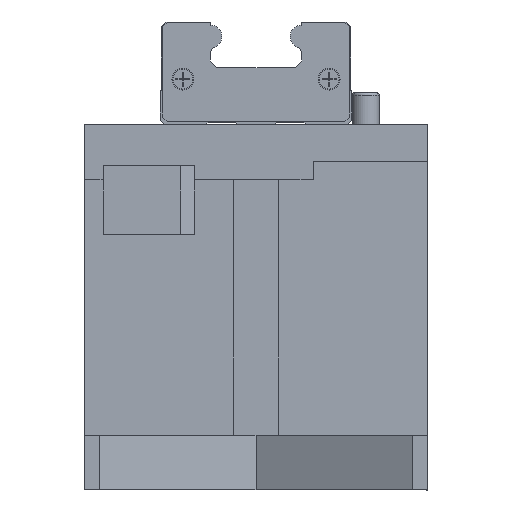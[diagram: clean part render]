
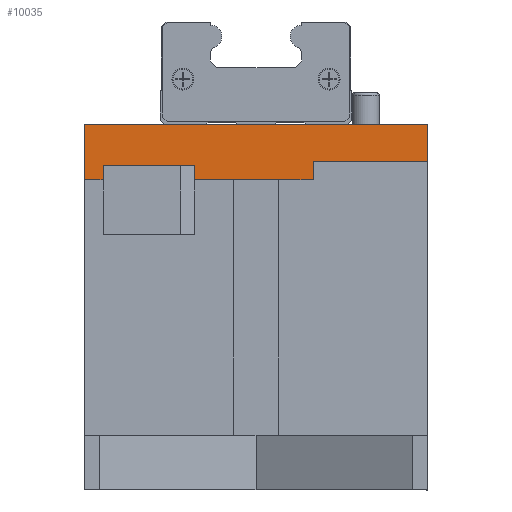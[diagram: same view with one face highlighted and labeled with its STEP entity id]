
A CAD part, left-side view. The second image highlights one B-rep face of the part: STEP entity #10035.
In plain terms, the highlighted planar face has unit normal (-1, 0, 0).
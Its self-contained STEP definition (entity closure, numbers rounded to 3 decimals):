
#160 = CARTESIAN_POINT ( 'NONE',  ( -50., -9., 4. ) ) ;
#316 = LINE ( 'NONE', #26153, #1324 ) ;
#535 = CARTESIAN_POINT ( 'NONE',  ( -50., -12., 0. ) ) ;
#1324 = VECTOR ( 'NONE', #19782, 1000. ) ;
#1963 = DIRECTION ( 'NONE',  ( 0., 0., 1. ) ) ;
#2009 = ORIENTED_EDGE ( 'NONE', *, *, #10796, .F. ) ;
#2224 = AXIS2_PLACEMENT_3D ( 'NONE', #4790, #4514, #11108 ) ;
#2346 = CARTESIAN_POINT ( 'NONE',  ( -50., -9., 0. ) ) ;
#2416 = EDGE_CURVE ( 'NONE', #20709, #24258, #4548, .T. ) ;
#2543 = ORIENTED_EDGE ( 'NONE', *, *, #5342, .T. ) ;
#2839 = VERTEX_POINT ( 'NONE', #11972 ) ;
#2962 = EDGE_CURVE ( 'NONE', #24258, #27207, #25885, .T. ) ;
#4145 = LINE ( 'NONE', #22684, #24238 ) ;
#4208 = VECTOR ( 'NONE', #1963, 1000. ) ;
#4514 = DIRECTION ( 'NONE',  ( -1., 0., 0. ) ) ;
#4548 = LINE ( 'NONE', #2346, #4208 ) ;
#4790 = CARTESIAN_POINT ( 'NONE',  ( -50., -12., 0. ) ) ;
#4808 = LINE ( 'NONE', #16142, #6874 ) ;
#5089 = CARTESIAN_POINT ( 'NONE',  ( -50., -12., 50. ) ) ;
#5342 = EDGE_CURVE ( 'NONE', #17884, #11037, #316, .T. ) ;
#5436 = VECTOR ( 'NONE', #24732, 1000. ) ;
#6214 = VERTEX_POINT ( 'NONE', #27415 ) ;
#6256 = CARTESIAN_POINT ( 'NONE',  ( -50., -8., 75. ) ) ;
#6732 = VERTEX_POINT ( 'NONE', #13466 ) ;
#6874 = VECTOR ( 'NONE', #20630, 1000. ) ;
#7139 = LINE ( 'NONE', #22202, #5436 ) ;
#8453 = ORIENTED_EDGE ( 'NONE', *, *, #25899, .T. ) ;
#9074 = EDGE_CURVE ( 'NONE', #6214, #2839, #7139, .T. ) ;
#9817 = CARTESIAN_POINT ( 'NONE',  ( -50., -12., 50. ) ) ;
#10035 = ADVANCED_FACE ( 'NONE', ( #19990 ), #11301, .T. ) ;
#10121 = CARTESIAN_POINT ( 'NONE',  ( -50., -12., 24. ) ) ;
#10613 = EDGE_CURVE ( 'NONE', #27207, #13477, #11668, .T. ) ;
#10712 = EDGE_CURVE ( 'NONE', #2839, #20709, #4145, .T. ) ;
#10796 = EDGE_CURVE ( 'NONE', #6214, #6732, #4808, .T. ) ;
#11037 = VERTEX_POINT ( 'NONE', #12507 ) ;
#11108 = DIRECTION ( 'NONE',  ( 0., 0., 1. ) ) ;
#11301 = PLANE ( 'NONE',  #2224 ) ;
#11668 = LINE ( 'NONE', #535, #12343 ) ;
#11771 = VECTOR ( 'NONE', #25207, 1000. ) ;
#11972 = CARTESIAN_POINT ( 'NONE',  ( -50., -12., 4. ) ) ;
#12214 = CARTESIAN_POINT ( 'NONE',  ( -50., -8., 0. ) ) ;
#12343 = VECTOR ( 'NONE', #18081, 1000. ) ;
#12457 = ORIENTED_EDGE ( 'NONE', *, *, #24775, .T. ) ;
#12507 = CARTESIAN_POINT ( 'NONE',  ( -50., 0., 75. ) ) ;
#13373 = ORIENTED_EDGE ( 'NONE', *, *, #9074, .T. ) ;
#13466 = CARTESIAN_POINT ( 'NONE',  ( -50., 0., 0. ) ) ;
#13477 = VERTEX_POINT ( 'NONE', #5089 ) ;
#13507 = VERTEX_POINT ( 'NONE', #13869 ) ;
#13869 = CARTESIAN_POINT ( 'NONE',  ( -50., -8., 50. ) ) ;
#14098 = ORIENTED_EDGE ( 'NONE', *, *, #2416, .T. ) ;
#14112 = DIRECTION ( 'NONE',  ( 0., 1., 0. ) ) ;
#15555 = DIRECTION ( 'NONE',  ( 0., 1., 0. ) ) ;
#15654 = LINE ( 'NONE', #19337, #25103 ) ;
#16142 = CARTESIAN_POINT ( 'NONE',  ( -50., -12., 0. ) ) ;
#17884 = VERTEX_POINT ( 'NONE', #6256 ) ;
#18081 = DIRECTION ( 'NONE',  ( 0., 0., 1. ) ) ;
#18956 = DIRECTION ( 'NONE',  ( 0., -1., 0. ) ) ;
#19337 = CARTESIAN_POINT ( 'NONE',  ( -50., 0., 75. ) ) ;
#19458 = EDGE_CURVE ( 'NONE', #11037, #6732, #15654, .T. ) ;
#19782 = DIRECTION ( 'NONE',  ( 0., 1., 0. ) ) ;
#19990 = FACE_OUTER_BOUND ( 'NONE', #21873, .T. ) ;
#20630 = DIRECTION ( 'NONE',  ( 0., 1., 0. ) ) ;
#20709 = VERTEX_POINT ( 'NONE', #160 ) ;
#21792 = VECTOR ( 'NONE', #15555, 1000. ) ;
#21873 = EDGE_LOOP ( 'NONE', ( #2009, #13373, #22044, #14098, #23253, #22186, #12457, #8453, #2543, #25241 ) ) ;
#22044 = ORIENTED_EDGE ( 'NONE', *, *, #10712, .T. ) ;
#22186 = ORIENTED_EDGE ( 'NONE', *, *, #10613, .T. ) ;
#22202 = CARTESIAN_POINT ( 'NONE',  ( -50., -12., 0. ) ) ;
#22684 = CARTESIAN_POINT ( 'NONE',  ( -50., -12., 4. ) ) ;
#23253 = ORIENTED_EDGE ( 'NONE', *, *, #2962, .T. ) ;
#23515 = DIRECTION ( 'NONE',  ( 0., 0., -1. ) ) ;
#24238 = VECTOR ( 'NONE', #14112, 1000. ) ;
#24258 = VERTEX_POINT ( 'NONE', #24482 ) ;
#24362 = LINE ( 'NONE', #12214, #11771 ) ;
#24482 = CARTESIAN_POINT ( 'NONE',  ( -50., -9., 24. ) ) ;
#24732 = DIRECTION ( 'NONE',  ( 0., 0., 1. ) ) ;
#24775 = EDGE_CURVE ( 'NONE', #13477, #13507, #25831, .T. ) ;
#25103 = VECTOR ( 'NONE', #23515, 1000. ) ;
#25207 = DIRECTION ( 'NONE',  ( 0., 0., 1. ) ) ;
#25241 = ORIENTED_EDGE ( 'NONE', *, *, #19458, .T. ) ;
#25831 = LINE ( 'NONE', #9817, #21792 ) ;
#25885 = LINE ( 'NONE', #27230, #26549 ) ;
#25899 = EDGE_CURVE ( 'NONE', #13507, #17884, #24362, .T. ) ;
#26153 = CARTESIAN_POINT ( 'NONE',  ( -50., -12., 75. ) ) ;
#26549 = VECTOR ( 'NONE', #18956, 1000. ) ;
#27207 = VERTEX_POINT ( 'NONE', #10121 ) ;
#27230 = CARTESIAN_POINT ( 'NONE',  ( -50., -12., 24. ) ) ;
#27415 = CARTESIAN_POINT ( 'NONE',  ( -50., -12., 0. ) ) ;
